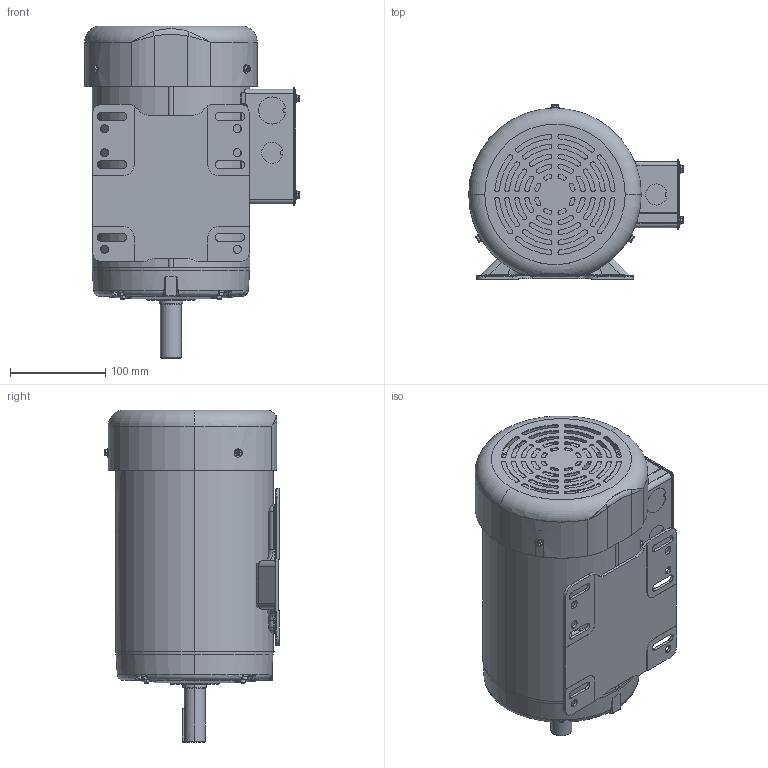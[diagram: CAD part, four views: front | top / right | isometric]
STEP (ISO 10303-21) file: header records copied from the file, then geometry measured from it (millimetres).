
FILE_DESCRIPTION (( 'STEP AP203' ), '1' );
FILE_NAME ('028753-750_Rev01.STEP', '2017-10-19T20:44:24', ( 'rbcepc' ), ( 'Microsoft' ), 'SwSTEP 2.0', 'SolidWorks 2015', '' );
FILE_SCHEMA (( 'CONFIG_CONTROL_DESIGN' ));
Length unit declared in the file: inch
Products named in the file (1): 028753-750_Rev01
Bounding box: 225.83 x 183.39 x 349.31 mm (x, y, z)
Volume: 992949.3 mm3; surface area: 689210.2 mm2
Topology: 40 solids, 40 shells, 3636 faces, 8935 edges, 5360 vertices
Faces by surface type: cylinder 1076, plane 946, bspline 813, torus 384, cone 312, sphere 105
Entity records: 137726 total; most frequent: CARTESIAN_POINT 57140, ORIENTED_EDGE 17628, DIRECTION 16113, EDGE_CURVE 8814, AXIS2_PLACEMENT_3D 6677, VERTEX_POINT 5356, EDGE_LOOP 3950, CIRCLE 3853
